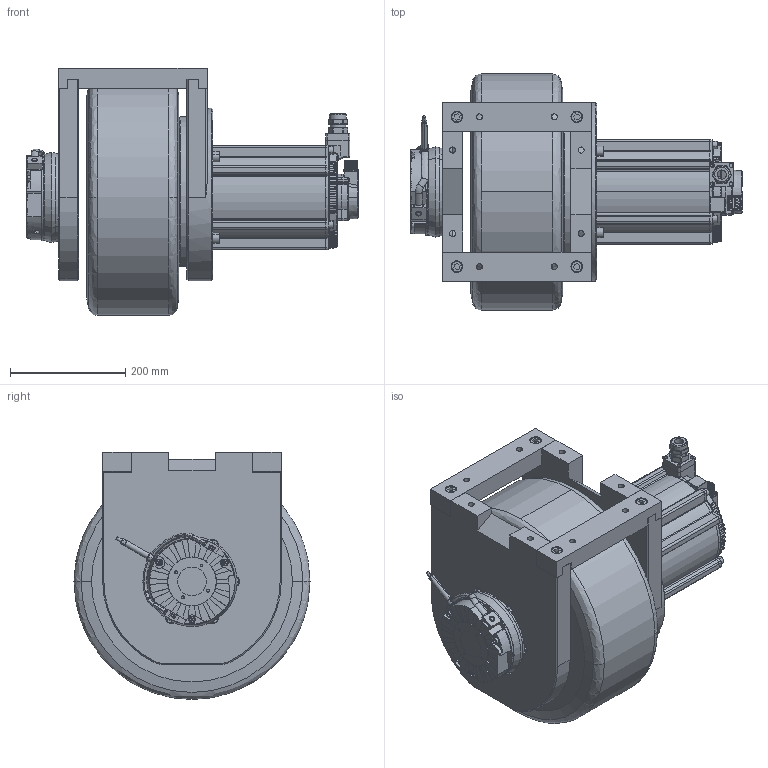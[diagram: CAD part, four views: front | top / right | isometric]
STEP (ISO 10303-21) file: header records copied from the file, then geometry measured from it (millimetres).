
FILE_DESCRIPTION (( 'STEP AP214' ), '1' );
FILE_NAME ('TEC-410P7500SP-48H.STEP', '2022-03-16T08:55:35', ( 'admin' ), ( 'Microsoft' ), 'SwSTEP 2.0', 'SolidWorks 2012', '' );
FILE_SCHEMA (( 'AUTOMOTIVE_DESIGN' ));
Length unit declared in the file: millimetre
Products named in the file (1): TEC-410P7500SP-48H
Bounding box: 576.5 x 410 x 429 mm (x, y, z)
Surface area: 1430559.5 mm2 (no closed solid volume)
Topology: 0 solids, 123 shells, 2090 faces, 6530 edges, 4281 vertices
Faces by surface type: plane 681, cylinder 603, bspline 538, cone 228, torus 40
Entity records: 114953 total; most frequent: CARTESIAN_POINT 38607, DIRECTION 10826, ORIENTED_EDGE 10425, EDGE_CURVE 6478, VERTEX_POINT 4281, AXIS2_PLACEMENT_3D 4023, VECTOR 2780, LINE 2780
